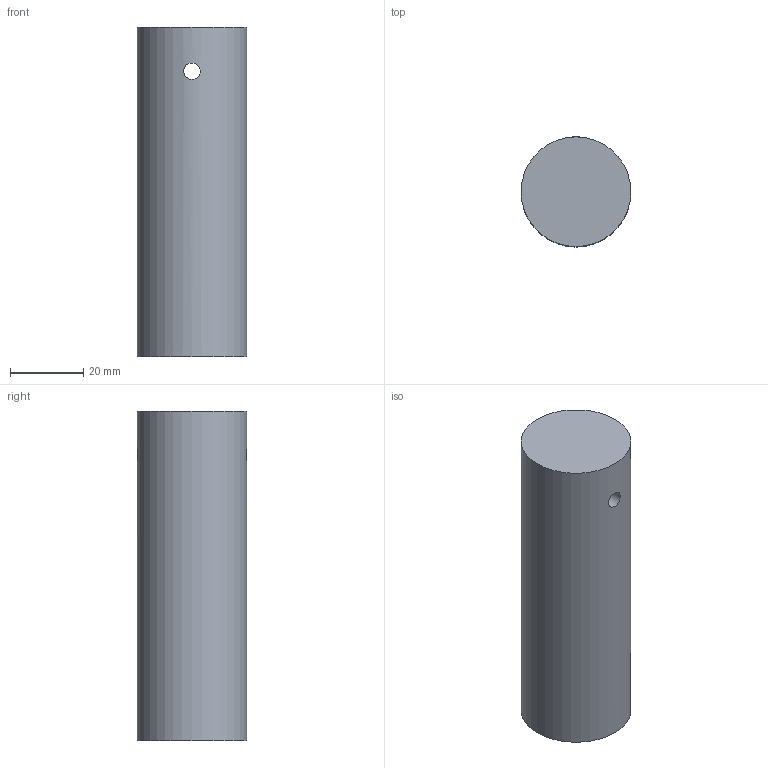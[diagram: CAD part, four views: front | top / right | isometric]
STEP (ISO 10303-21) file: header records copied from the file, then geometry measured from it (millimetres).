
FILE_DESCRIPTION(('Open CASCADE Model'),'2;1');
FILE_NAME('Open CASCADE Shape Model','2026-10-19T10:09:21',('Author'),( 'Open CASCADE'),'Open CASCADE STEP processor 8.0','Open CASCADE 8.0' ,'Unknown');
FILE_SCHEMA(('AUTOMOTIVE_DESIGN { 1 0 10303 214 1 1 1 1 }'));
Length unit declared in the file: millimetre
Products named in the file (1): TC11_PASADOR_D30_L90_FY355_P05 115
Bounding box: 30 x 30 x 90 mm (x, y, z)
Volume: 63141.6 mm3; surface area: 10285.9 mm2
Topology: 1 solids, 1 shells, 4 faces, 6 edges, 4 vertices
Faces by surface type: cylinder 2, plane 2
Full cylindrical faces by diameter (mm): 4.5 x1, 30 x1
Entity records: 520 total; most frequent: CARTESIAN_POINT 381, DIRECTION 22, ORIENTED_EDGE 12, PCURVE 12, DEFINITIONAL_REPRESENTATION 12, LINE 8, VECTOR 8, AXIS2_PLACEMENT_3D 7
